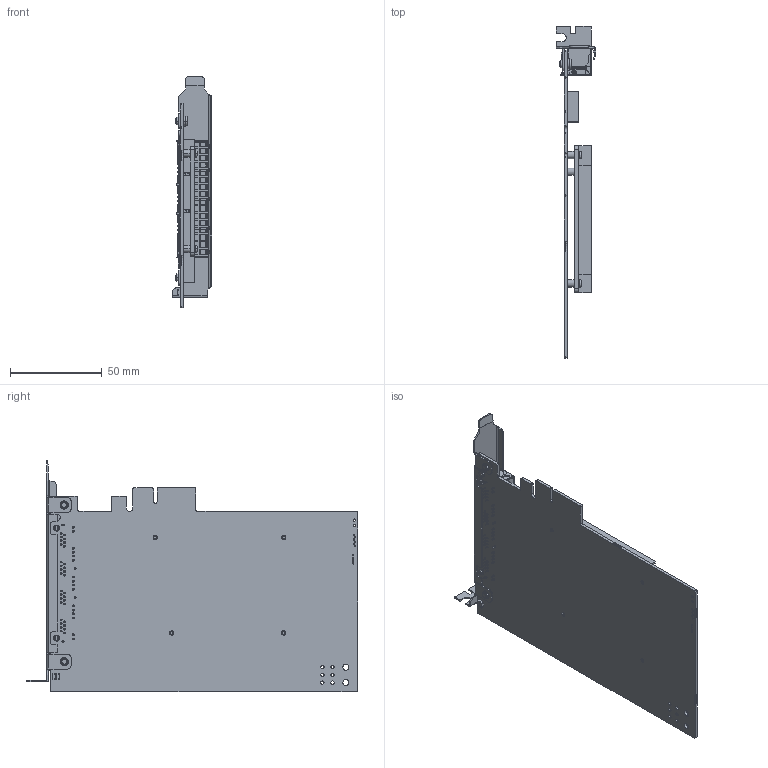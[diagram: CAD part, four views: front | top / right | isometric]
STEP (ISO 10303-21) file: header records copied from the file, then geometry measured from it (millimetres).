
FILE_DESCRIPTION((''),'2;1');
FILE_NAME('000-0003_ASM','2023-08-02T16:51:04',('qinyangfan'),(''),'CREO PARAMETRIC BY PTC INC, 2020044','CREO PARAMETRIC BY PTC INC, 2020044','');
FILE_SCHEMA(('CONFIG_CONTROL_DESIGN'));
Products named in the file (38): ST-D4X4D2X1-F2X3-CU; DCV-01447-X1-GP0001_ASM; SC-P0M2X5B-GB818; SC-P0M3X4-GB818; DE-11-020519; MV-20293REV11-202302041428; 101303810; 100500223; 100200156; 910200024_ASM; 910600627_ASM; 910300331_ASM; 193500315; 1055; MARK120; 910700829_ASM; MV-20293REV11-202302041428_ASM; DE-14-010350_2_1_AF0_1_1; DE-14-010350_2_2_1_1; DE-14-010350_2_3_1_1; DE-14-010350_2_4_1_1; DE-14-010350_2_5_1_1; DE-14-010350_2_6_1_1; DE-14-010350_2_7_1_1; DE-14-010350_2_8_1_1; DE-14-010350_2_9_1_1; DE-14-010350_2_10_1_1; DE-14-010350_2_11_1_1; DE-14-010350_2_12_1_1; DE-14-010350_2_13_1_1; DE-14-010350_2_14_1_1; DE-14-010350_2_15_1_1; DE-14-010350_2_16_1_1; DE-14-010350_2_17_1_1; DE-14-010350_2_ASM_1_ASM_1_ASM; GT1104_HEATSINK_20230526_ASM_1_ASM; GE1104_HEATSINK_20230530_ASM; 000-0003_ASM
Assembly tree (64 placements, depth 5):
  000-0003_ASM
    ST-D4X4D2X1-F2X3-CU  x2
    DCV-01447-X1-GP0001_ASM
    SC-P0M2X5B-GB818  x4
    SC-P0M3X4-GB818  x2
    DE-11-020519
    MV-20293REV11-202302041428_ASM
      MV-20293REV11-202302041428
      101303810
      100500223  x4
      100200156  x2
      910200024_ASM  x2
      910600627_ASM  x9
      910300331_ASM  x6
      193500315  x4
      1055  x2
      MARK120
      910700829_ASM
    GE1104_HEATSINK_20230530_ASM
      GT1104_HEATSINK_20230526_ASM_1_ASM
        DE-14-010350_2_ASM_1_ASM_1_ASM
          DE-14-010350_2_1_AF0_1_1
          DE-14-010350_2_2_1_1
          DE-14-010350_2_3_1_1
          DE-14-010350_2_4_1_1
          DE-14-010350_2_5_1_1
          DE-14-010350_2_6_1_1
          DE-14-010350_2_7_1_1
          DE-14-010350_2_8_1_1
          DE-14-010350_2_9_1_1
          DE-14-010350_2_10_1_1
          DE-14-010350_2_11_1_1
          DE-14-010350_2_12_1_1
          DE-14-010350_2_13_1_1
          DE-14-010350_2_14_1_1
          DE-14-010350_2_15_1_1
          DE-14-010350_2_16_1_1
          DE-14-010350_2_17_1_1
Bounding box: 21.59 x 180.98 x 126.3 mm (x, y, z)
Volume: 56682.8 mm3; surface area: 92179.6 mm2
Topology: 46 solids, 164 shells, 3544 faces, 9919 edges, 6490 vertices
Faces by surface type: plane 2430, cylinder 976, cone 66, torus 36, revolution 16, bspline 10, extrusion 10
Entity records: 110928 total; most frequent: CARTESIAN_POINT 25862, ORIENTED_EDGE 17692, DIRECTION 16593, EDGE_CURVE 9229, VECTOR 6815, LINE 6805, VERTEX_POINT 6066, AXIS2_PLACEMENT_3D 4881
